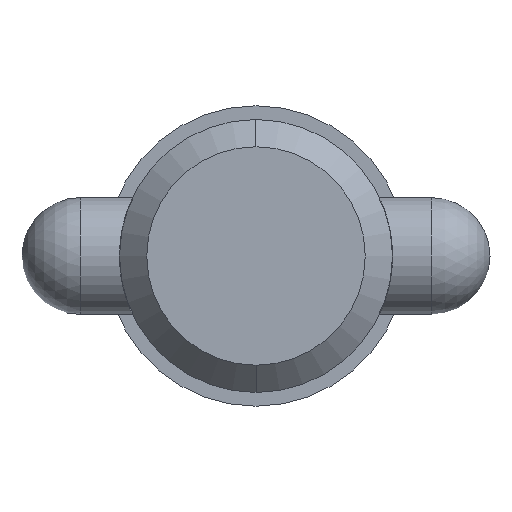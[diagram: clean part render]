
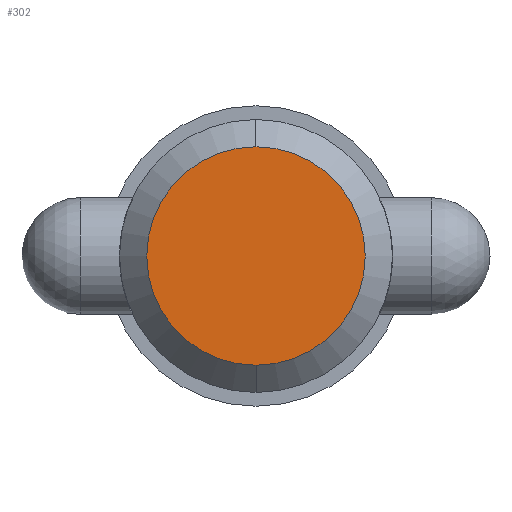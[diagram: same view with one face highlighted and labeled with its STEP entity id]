
A CAD part, left-side view. The second image highlights one B-rep face of the part: STEP entity #302.
In plain terms, the highlighted planar face has unit normal (-1, 0, 0).
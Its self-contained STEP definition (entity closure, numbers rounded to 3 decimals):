
#2 = VERTEX_POINT ( 'NONE', #608 ) ;
#102 = FACE_OUTER_BOUND ( 'NONE', #603, .T. ) ;
#147 = CARTESIAN_POINT ( 'NONE',  ( 0., 0., 0. ) ) ;
#193 = DIRECTION ( 'NONE',  ( 0., 0., -1. ) ) ;
#209 = PLANE ( 'NONE',  #290 ) ;
#241 = CIRCLE ( 'NONE', #922, 8.892 ) ;
#290 = AXIS2_PLACEMENT_3D ( 'NONE', #147, #395, #967 ) ;
#302 = ADVANCED_FACE ( 'NONE', ( #102 ), #209, .T. ) ;
#305 = ORIENTED_EDGE ( 'NONE', *, *, #383, .F. ) ;
#332 = CARTESIAN_POINT ( 'NONE',  ( 0., 0., 8.892 ) ) ;
#373 = CIRCLE ( 'NONE', #871, 8.892 ) ;
#383 = EDGE_CURVE ( 'NONE', #652, #2, #373, .T. ) ;
#395 = DIRECTION ( 'NONE',  ( -1., 0., 0. ) ) ;
#601 = CARTESIAN_POINT ( 'NONE',  ( 0., 0., 0. ) ) ;
#603 = EDGE_LOOP ( 'NONE', ( #1049, #305 ) ) ;
#608 = CARTESIAN_POINT ( 'NONE',  ( 0., 0., -8.892 ) ) ;
#629 = DIRECTION ( 'NONE',  ( 1., 0., 0. ) ) ;
#642 = CARTESIAN_POINT ( 'NONE',  ( 0., 0., 0. ) ) ;
#652 = VERTEX_POINT ( 'NONE', #332 ) ;
#684 = DIRECTION ( 'NONE',  ( 1., 0., 0. ) ) ;
#785 = DIRECTION ( 'NONE',  ( 0., 0., -1. ) ) ;
#871 = AXIS2_PLACEMENT_3D ( 'NONE', #642, #629, #785 ) ;
#922 = AXIS2_PLACEMENT_3D ( 'NONE', #601, #684, #193 ) ;
#967 = DIRECTION ( 'NONE',  ( 0., 0., 1. ) ) ;
#978 = EDGE_CURVE ( 'NONE', #2, #652, #241, .T. ) ;
#1049 = ORIENTED_EDGE ( 'NONE', *, *, #978, .F. ) ;
